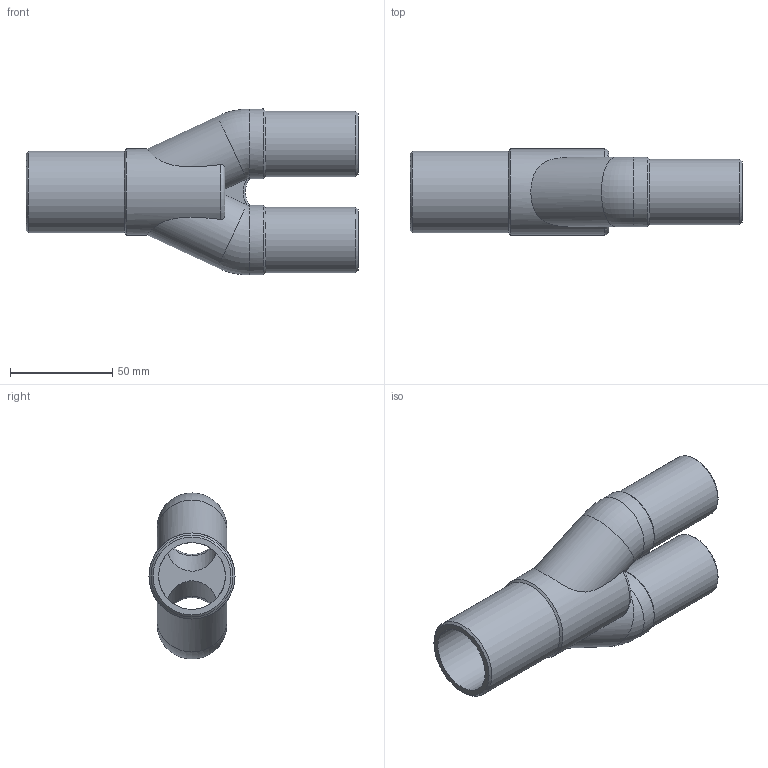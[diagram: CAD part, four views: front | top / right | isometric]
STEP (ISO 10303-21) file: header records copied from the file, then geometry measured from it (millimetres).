
FILE_DESCRIPTION(/* description */ ('Unknown'),/* implementation_level */ '2;1');
FILE_NAME(/* name */ 'YRP040032C',/* time_stamp */ '2022-02-23T11:09:18+01:00',/* author */ ('Unknown'),/* organization */ ('Unknown'),/* preprocessor_version */ 'ST-DEVELOPER v18.1',/* originating_system */ 'Solid Edge',/* authorisation */ 'Unknown');
FILE_SCHEMA (('AUTOMOTIVE_DESIGN {1 0 10303 214 3 1 1}'));
Length unit declared in the file: millimetre
Products named in the file (1): YRP040032C
Bounding box: 162 x 42 x 81 mm (x, y, z)
Volume: 94123.4 mm3; surface area: 51173.1 mm2
Topology: 1 solids, 1 shells, 40 faces, 107 edges, 68 vertices
Faces by surface type: cylinder 14, plane 12, torus 8, cone 6
Full cylindrical faces by diameter (mm): 26 x4, 32 x2, 32.6 x1, 34 x2, 40 x1, 42 x1
Entity records: 1212 total; most frequent: CARTESIAN_POINT 325, DIRECTION 186, ORIENTED_EDGE 154, AXIS2_PLACEMENT_3D 88, EDGE_CURVE 77, EDGE_LOOP 62, FACE_BOUND 62, VERTEX_POINT 57
